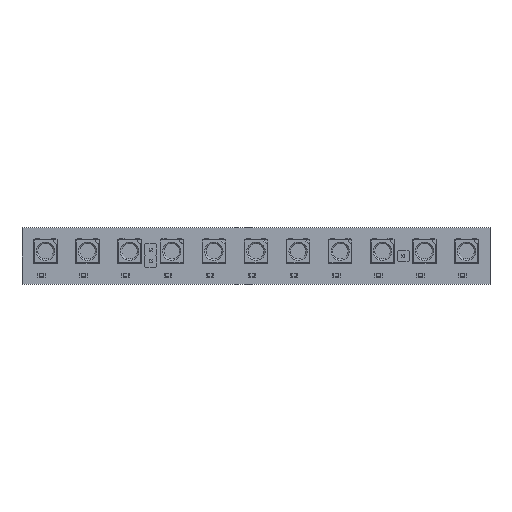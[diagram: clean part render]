
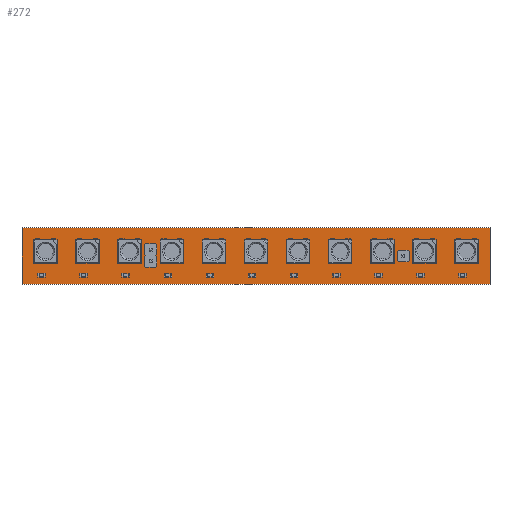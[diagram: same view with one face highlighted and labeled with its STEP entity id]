
A CAD part, top view. The second image highlights one B-rep face of the part: STEP entity #272.
In plain terms, the highlighted planar face has unit normal (0, 0, 1).
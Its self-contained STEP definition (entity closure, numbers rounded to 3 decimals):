
#54 = VERTEX_POINT('',#55);
#55 = CARTESIAN_POINT('',(20.,-20.,0.));
#72 = VERTEX_POINT('',#73);
#73 = CARTESIAN_POINT('',(120.,-20.,0.));
#79 = EDGE_CURVE('',#54,#72,#80,.T.);
#80 = LINE('',#81,#82);
#81 = CARTESIAN_POINT('',(20.,-20.,0.));
#82 = VECTOR('',#83,1.);
#83 = DIRECTION('',(1.,0.,0.));
#94 = VERTEX_POINT('',#95);
#95 = CARTESIAN_POINT('',(20.,-32.,0.));
#110 = EDGE_CURVE('',#94,#54,#111,.T.);
#111 = LINE('',#112,#113);
#112 = CARTESIAN_POINT('',(20.,-32.,0.));
#113 = VECTOR('',#114,1.);
#114 = DIRECTION('',(0.,1.,0.));
#134 = VERTEX_POINT('',#135);
#135 = CARTESIAN_POINT('',(120.,-32.,0.));
#141 = EDGE_CURVE('',#72,#134,#142,.T.);
#142 = LINE('',#143,#144);
#143 = CARTESIAN_POINT('',(120.,-20.,0.));
#144 = VECTOR('',#145,1.);
#145 = DIRECTION('',(0.,-1.,0.));
#163 = EDGE_CURVE('',#134,#94,#164,.T.);
#164 = LINE('',#165,#166);
#165 = CARTESIAN_POINT('',(120.,-32.,0.));
#166 = VECTOR('',#167,1.);
#167 = DIRECTION('',(-1.,0.,0.));
#178 = VERTEX_POINT('',#179);
#179 = CARTESIAN_POINT('',(101.98,-26.,0.));
#195 = EDGE_CURVE('',#178,#178,#196,.T.);
#196 = CIRCLE('',#197,0.5);
#197 = AXIS2_PLACEMENT_3D('',#198,#199,#200);
#198 = CARTESIAN_POINT('',(101.48,-26.,0.));
#199 = DIRECTION('',(0.,0.,1.));
#200 = DIRECTION('',(1.,0.,-0.));
#211 = VERTEX_POINT('',#212);
#212 = CARTESIAN_POINT('',(47.97,-27.17,0.));
#228 = EDGE_CURVE('',#211,#211,#229,.T.);
#229 = CIRCLE('',#230,0.5);
#230 = AXIS2_PLACEMENT_3D('',#231,#232,#233);
#231 = CARTESIAN_POINT('',(47.47,-27.17,0.));
#232 = DIRECTION('',(0.,0.,1.));
#233 = DIRECTION('',(1.,0.,-0.));
#244 = VERTEX_POINT('',#245);
#245 = CARTESIAN_POINT('',(47.97,-24.63,0.));
#261 = EDGE_CURVE('',#244,#244,#262,.T.);
#262 = CIRCLE('',#263,0.5);
#263 = AXIS2_PLACEMENT_3D('',#264,#265,#266);
#264 = CARTESIAN_POINT('',(47.47,-24.63,0.));
#265 = DIRECTION('',(0.,0.,1.));
#266 = DIRECTION('',(1.,0.,-0.));
#272 = ADVANCED_FACE('',(#273,#279,#282,#285),#288,.F.);
#273 = FACE_BOUND('',#274,.F.);
#274 = EDGE_LOOP('',(#275,#276,#277,#278));
#275 = ORIENTED_EDGE('',*,*,#79,.T.);
#276 = ORIENTED_EDGE('',*,*,#141,.T.);
#277 = ORIENTED_EDGE('',*,*,#163,.T.);
#278 = ORIENTED_EDGE('',*,*,#110,.T.);
#279 = FACE_BOUND('',#280,.F.);
#280 = EDGE_LOOP('',(#281));
#281 = ORIENTED_EDGE('',*,*,#195,.T.);
#282 = FACE_BOUND('',#283,.F.);
#283 = EDGE_LOOP('',(#284));
#284 = ORIENTED_EDGE('',*,*,#228,.T.);
#285 = FACE_BOUND('',#286,.F.);
#286 = EDGE_LOOP('',(#287));
#287 = ORIENTED_EDGE('',*,*,#261,.T.);
#288 = PLANE('',#289);
#289 = AXIS2_PLACEMENT_3D('',#290,#291,#292);
#290 = CARTESIAN_POINT('',(70.,-26.,0.));
#291 = DIRECTION('',(-0.,-0.,-1.));
#292 = DIRECTION('',(-1.,0.,0.));
